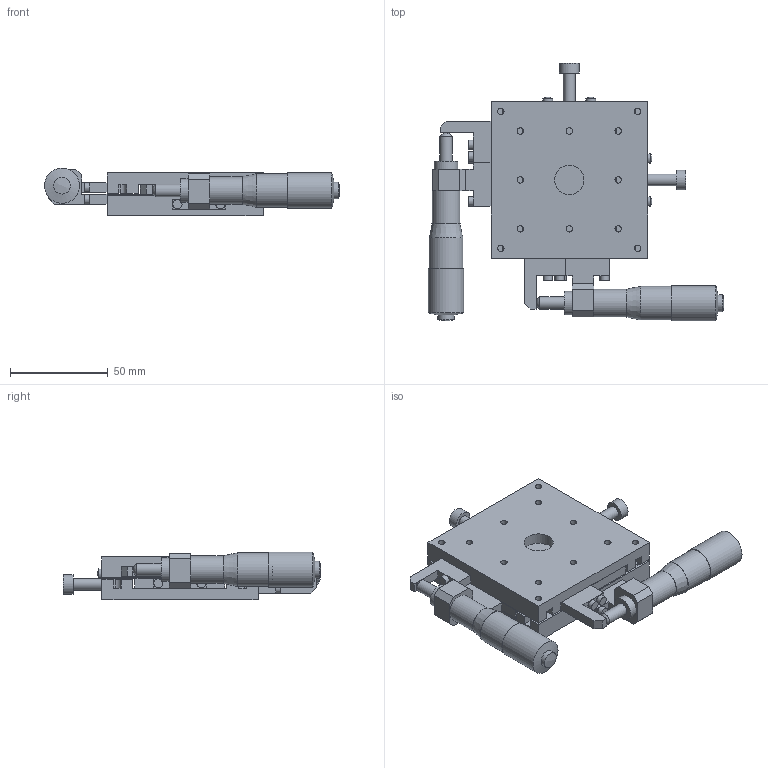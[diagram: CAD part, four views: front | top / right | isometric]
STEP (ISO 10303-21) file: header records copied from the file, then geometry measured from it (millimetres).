
FILE_DESCRIPTION( ( 'STEP AP214' ), '1' );
FILE_NAME( 'C:/Project/3D_B23-80C-配布-070508.stp', '2007-05-08T10:43:06', ( ' ' ), ( ' ' ), 'XStep 1.0', ' ', ' ' );
FILE_SCHEMA( ( 'automotive_design' ) );
Length unit declared in the file: millimetre
Products named in the file (5): 1; 2; 3; 4; 5
Bounding box: 150.87 x 131.65 x 24.5 mm (x, y, z)
Volume: 167546.3 mm3; surface area: 71330.2 mm2
Topology: 5 solids, 5 shells, 265 faces, 720 edges, 473 vertices
Faces by surface type: plane 176, cylinder 75, sphere 8, cone 6
Full cylindrical faces by diameter (mm): 3 x2, 3.3 x12, 4.5 x4, 4.7 x8, 5 x4, 6 x2, 6.35 x2, 6.5 x2, 8 x4, 8.6 x2, 10 x2, 12 x2, 14 x2, 15 x1, 16.8 x2, 17.2 x2, 18 x2
Entity records: 9890 total; most frequent: DIRECTION 1320, CARTESIAN_POINT 1314, ORIENTED_EDGE 1224, EDGE_CURVE 612, LINE 444, VECTOR 444, AXIS2_PLACEMENT_3D 438, VERTEX_POINT 432
